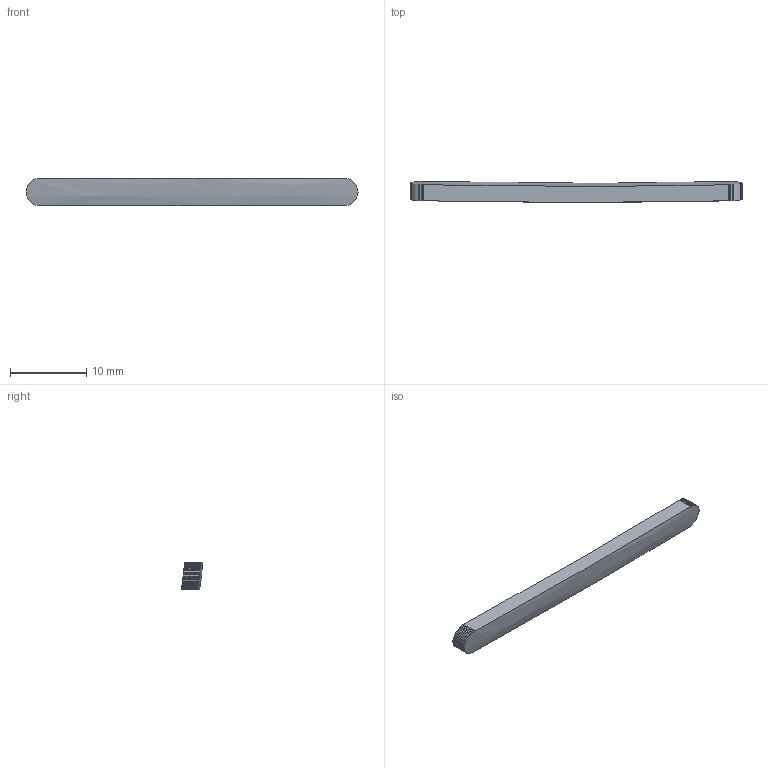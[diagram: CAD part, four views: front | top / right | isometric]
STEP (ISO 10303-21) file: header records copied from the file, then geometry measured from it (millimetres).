
FILE_DESCRIPTION(('Open CASCADE Model'),'2;1');
FILE_NAME('Open CASCADE Shape Model','2026-11-11T21:53:52',('Author'),( 'Open CASCADE'),'Open CASCADE STEP processor 8.0','build123d', 'Unknown');
FILE_SCHEMA(('AUTOMOTIVE_DESIGN { 1 0 10303 214 1 1 1 1 }'));
Length unit declared in the file: millimetre
Products named in the file (1): SOLID
Bounding box: 43.6 x 2.77 x 3.6 mm (x, y, z)
Volume: 326.2 mm3; surface area: 504.4 mm2
Topology: 1 solids, 1 shells, 68 faces, 198 edges, 132 vertices
Faces by surface type: plane 66, offset 2
Entity records: 17947 total; most frequent: CARTESIAN_POINT 15150, B_SPLINE_CURVE_WITH_KNOTS 594, ORIENTED_EDGE 396, PCURVE 396, DEFINITIONAL_REPRESENTATION 396, EDGE_CURVE 198, SURFACE_CURVE 198, DIRECTION 134
